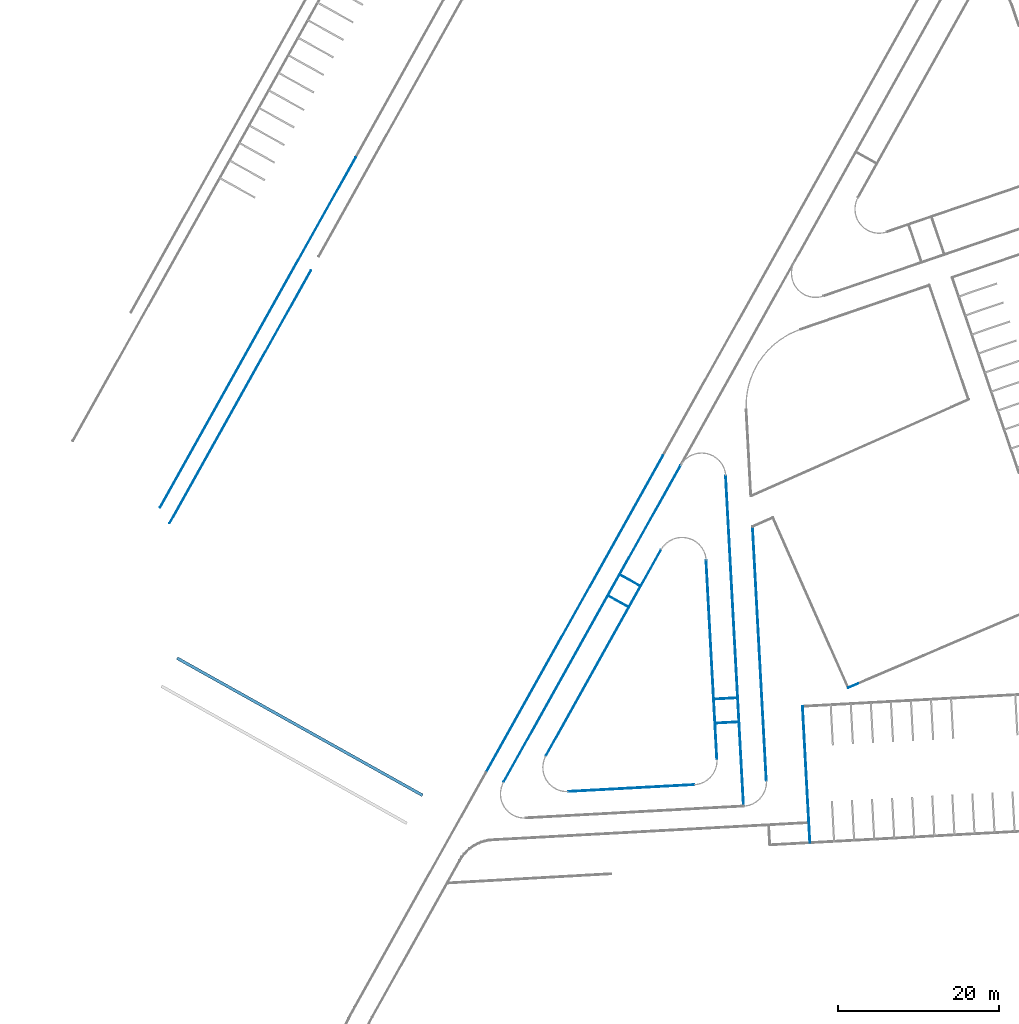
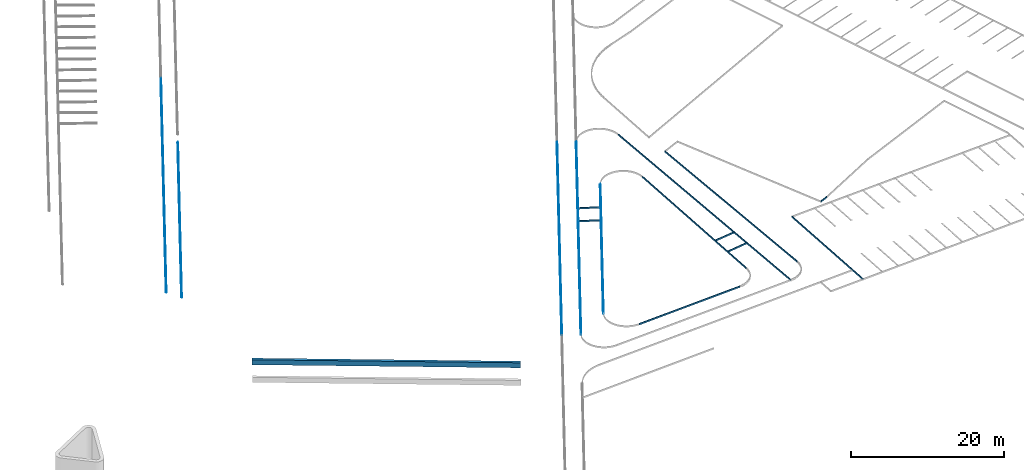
# One storey, part 3 of 112: 16 beams.
"""IFC2X3 building model written with IfcOpenShell, lengths in millimetres."""

from ifc_helpers import new_model, entity, si_unit, converted_unit, derived_unit, direction, frame, frame_2d, origin, place, context, subcontext, project, spatial, polyline, rectangle, outline, extrude, material, type_object, element, save


model = new_model("IFC2X3")

# Units and contexts
model_context = context("Model", 3, precision=0.01, world=origin(), true_north=direction((6.123031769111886e-17, 1.0)))
body_context = subcontext(model_context, "Body", "Model", "MODEL_VIEW")
ifc_project = project(units=[si_unit("LENGTHUNIT", "METRE", prefix="MILLI"), si_unit("AREAUNIT", "SQUARE_METRE"), si_unit("VOLUMEUNIT", "CUBIC_METRE"), converted_unit("PLANEANGLEUNIT", "DEGREE", entity("IfcRatioMeasure", 0.017453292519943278), si_unit("PLANEANGLEUNIT", "RADIAN"), dimensions=[0, 0, 0, 0, 0, 0, 0]), si_unit("MASSUNIT", "GRAM", prefix="KILO"), derived_unit("MASSDENSITYUNIT", [(si_unit("MASSUNIT", "GRAM", prefix="KILO"), 1), (si_unit("LENGTHUNIT", "METRE"), -3)]), derived_unit("MOMENTOFINERTIAUNIT", [(si_unit("LENGTHUNIT", "METRE"), 4)]), si_unit("TIMEUNIT", "SECOND"), si_unit("FREQUENCYUNIT", "HERTZ"), si_unit("THERMODYNAMICTEMPERATUREUNIT", "DEGREE_CELSIUS"), derived_unit("THERMALTRANSMITTANCEUNIT", [(si_unit("MASSUNIT", "GRAM", prefix="KILO"), 1), (si_unit("THERMODYNAMICTEMPERATUREUNIT", "KELVIN"), -1), (si_unit("TIMEUNIT", "SECOND"), -3)]), derived_unit("THERMALCONDUCTANCEUNIT", [(si_unit("MASSUNIT", "GRAM", prefix="KILO"), 1), (si_unit("LENGTHUNIT", "METRE"), 1), (si_unit("THERMODYNAMICTEMPERATUREUNIT", "KELVIN"), -1), (si_unit("TIMEUNIT", "SECOND"), -3)]), derived_unit("VOLUMETRICFLOWRATEUNIT", [(si_unit("LENGTHUNIT", "METRE"), 3), (si_unit("TIMEUNIT", "SECOND"), -1)]), derived_unit("MASSFLOWRATEUNIT", [(si_unit("MASSUNIT", "GRAM", prefix="KILO"), 1), (si_unit("TIMEUNIT", "SECOND"), -1)]), derived_unit("ROTATIONALFREQUENCYUNIT", [(si_unit("TIMEUNIT", "SECOND"), -1)]), si_unit("ELECTRICCURRENTUNIT", "AMPERE"), si_unit("ELECTRICVOLTAGEUNIT", "VOLT"), si_unit("POWERUNIT", "WATT"), converted_unit("FORCEUNIT", "KIP", entity("IfcRatioMeasure", 2.088543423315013e-05), si_unit("FORCEUNIT", "NEWTON"), dimensions=[1, 1, -2, 0, 0, 0, 0]), si_unit("ILLUMINANCEUNIT", "LUX"), si_unit("LUMINOUSFLUXUNIT", "LUMEN"), si_unit("LUMINOUSINTENSITYUNIT", "CANDELA"), derived_unit("USERDEFINED", [(si_unit("MASSUNIT", "GRAM", prefix="KILO"), -1), (si_unit("LENGTHUNIT", "METRE"), -2), (si_unit("TIMEUNIT", "SECOND"), 3), (si_unit("LUMINOUSFLUXUNIT", "LUMEN"), 1)]), derived_unit("USERDEFINED", [(si_unit("MASSUNIT", "GRAM", prefix="KILO"), 1), (si_unit("LENGTHUNIT", "METRE"), 3), (si_unit("TIMEUNIT", "SECOND"), -3), (si_unit("ELECTRICCURRENTUNIT", "AMPERE"), -2)]), derived_unit("USERDEFINED", [(si_unit("LENGTHUNIT", "METRE"), 2), (si_unit("TIMEUNIT", "SECOND"), -2)]), derived_unit("SOUNDPOWERUNIT", [(si_unit("MASSUNIT", "GRAM", prefix="KILO"), 1), (si_unit("LENGTHUNIT", "METRE"), 2), (si_unit("TIMEUNIT", "SECOND"), -3)]), derived_unit("SOUNDPRESSUREUNIT", [(si_unit("MASSUNIT", "GRAM", prefix="KILO"), 1), (si_unit("LENGTHUNIT", "METRE"), -1), (si_unit("TIMEUNIT", "SECOND"), -2)]), derived_unit("LINEARVELOCITYUNIT", [(si_unit("LENGTHUNIT", "METRE"), 1), (si_unit("TIMEUNIT", "SECOND"), -1)]), si_unit("PRESSUREUNIT", "PASCAL"), derived_unit("USERDEFINED", [(si_unit("LENGTHUNIT", "METRE"), -2), (si_unit("MASSUNIT", "GRAM", prefix="KILO"), 1), (si_unit("TIMEUNIT", "SECOND"), -2)]), derived_unit("LINEARFORCEUNIT", [(si_unit("MASSUNIT", "GRAM", prefix="KILO"), 1), (si_unit("LENGTHUNIT", "METRE"), 1), (si_unit("TIMEUNIT", "SECOND"), -2), (si_unit("LENGTHUNIT", "METRE"), -1)]), derived_unit("PLANARFORCEUNIT", [(si_unit("MASSUNIT", "GRAM", prefix="KILO"), 1), (si_unit("LENGTHUNIT", "METRE"), 1), (si_unit("TIMEUNIT", "SECOND"), -2), (si_unit("LENGTHUNIT", "METRE"), -2)]), derived_unit("SPECIFICHEATCAPACITYUNIT", [(si_unit("LENGTHUNIT", "METRE"), 2), (si_unit("TIMEUNIT", "SECOND"), -2), (si_unit("THERMODYNAMICTEMPERATUREUNIT", "KELVIN"), -1)]), derived_unit("VAPORPERMEABILITYUNIT", [(si_unit("TIMEUNIT", "SECOND"), 1), (si_unit("LENGTHUNIT", "METRE"), -1)]), derived_unit("DYNAMICVISCOSITYUNIT", [(si_unit("MASSUNIT", "GRAM", prefix="KILO"), 1), (si_unit("LENGTHUNIT", "METRE"), -1), (si_unit("TIMEUNIT", "SECOND"), -1)]), derived_unit("THERMALEXPANSIONCOEFFICIENTUNIT", [(si_unit("THERMODYNAMICTEMPERATUREUNIT", "KELVIN"), -1)])], contexts=[model_context])

# Site, building, storey
site_placement = place(None, frame((0.0, 0.0, 0.0), z_axis=(0.0, 0.0, 1.0), x_axis=(0.8191520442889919, 0.5735764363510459, 0.0)))
site = spatial("IfcSite", under=ifc_project, at=site_placement, Name="Default", CompositionType="ELEMENT")
building_placement = place(site_placement, origin())
building = spatial("IfcBuilding", under=site, at=building_placement, CompositionType="ELEMENT")
storey_placement = place(building_placement, frame((0.0, 0.0, -3600.0)))
storey = spatial("IfcBuildingStorey", under=building, at=storey_placement, Name="0.UG -3.60", CompositionType="ELEMENT", Elevation=-3600.0000000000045)

# Beams
ifc_material_1 = material(Name="Paveta_bordur")
beam_type_1 = type_object("IfcBeamType", Name="Beam-153 238112:Beam-153 238112", PredefinedType="NOTDEFINED")
beam_1_placement = place(storey_placement, origin())
element("IfcBeam", 1, at=beam_1_placement, inside=storey, type_object=beam_type_1, material=ifc_material_1, Name="Beam-153", ObjectType="Beam-153 238112:Beam-153 238112", context=body_context, shape_type="SweptSolid", body=[
    extrude(rectangle(XDim=250.00000000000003, YDim=99.99999999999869, at=frame_2d((2.7000623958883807e-13, -4.458655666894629e-12), x_axis=(1.0, 0.0))), frame((-7537.205577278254, 71732.131942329, 985.0), z_axis=(0.9786485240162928, -0.20554091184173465, 0.0), x_axis=(0.0, 0.0, -1.0)), (0.0, 0.0, 1.0), 1338.1490250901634),
])
ifc_material_2 = material(Name="Paint-01")
beam_type_2 = type_object("IfcBeamType", Name="Beam-139 237501:Beam-139 237501", PredefinedType="NOTDEFINED")
beam_2_placement = place(storey_placement, origin())
element("IfcBeam", 2, at=beam_2_placement, inside=storey, type_object=beam_type_2, material=ifc_material_2, Name="Beam-139", ObjectType="Beam-139 237501:Beam-139 237501", context=body_context, shape_type="SweptSolid", body=[
    extrude(outline(polyline([(-24958.478982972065, -125.0), (24953.46915664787, -125.0), (24958.478982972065, 125.0), (-24953.469156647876, 125.0), (-24958.478982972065, -125.0)])), frame((-42334.44229463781, 150063.91115927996, 2484.974904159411), z_axis=(-0.43519702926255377, 0.9003352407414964, 0.0), x_axis=(0.9001545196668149, 0.4351096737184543, -0.02003528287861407)), (0.0, 0.0, 1.0), 100.00000000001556),
])
beam_type_3 = type_object("IfcBeamType", Name="Beam-139 237447:Beam-139 237447", PredefinedType="NOTDEFINED")
beam_3_placement = place(storey_placement, origin())
element("IfcBeam", 3, at=beam_3_placement, inside=storey, type_object=beam_type_3, material=ifc_material_2, Name="Beam-139", ObjectType="Beam-139 237447:Beam-139 237447", context=body_context, shape_type="SweptSolid", body=[
    extrude(outline(polyline([(-18034.010078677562, -125.0), (18029.225078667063, -125.0), (18034.01007867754, 125.0), (-18029.22507866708, 125.0), (-18034.010078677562, -125.0)])), frame((-48736.3836078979, 144747.97691696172, 2629.9151438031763), z_axis=(-0.43518770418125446, 0.9003397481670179, 0.0), x_axis=(0.9001748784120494, 0.4351080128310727, -0.019136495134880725)), (0.0, 0.0, 1.0), 99.99999999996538),
])
beam_type_4 = type_object("IfcBeamType", Name="Beam-142 237446:Beam-142 237446", PredefinedType="NOTDEFINED")
beam_4_placement = place(storey_placement, origin())
element("IfcBeam", 4, at=beam_4_placement, inside=storey, type_object=beam_type_4, material=ifc_material_2, Name="Beam-142", ObjectType="Beam-142 237446:Beam-142 237446", context=body_context, shape_type="SweptSolid", body=[
    extrude(outline(polyline([(-20589.729018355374, -125.0), (20595.8009014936, -125.0), (20589.72901835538, 125.0), (-20595.80090149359, 125.0), (-20589.729018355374, -125.0)])), frame((-15825.925394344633, 84631.49749138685, 1484.9631376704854), z_axis=(0.849040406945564, -0.5283279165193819, 0.0), x_axis=(0.5281721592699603, 0.8487900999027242, -0.024280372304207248)), (0.0, 0.0, 1.0), 99.99999999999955),
])
beam_type_5 = type_object("IfcBeamType", Name="Beam-142 237426:Beam-142 237426", PredefinedType="NOTDEFINED")
beam_5_placement = place(storey_placement, origin())
element("IfcBeam", 5, at=beam_5_placement, inside=storey, type_object=beam_type_5, material=ifc_material_1, Name="Beam-142", ObjectType="Beam-142 237426:Beam-142 237426", context=body_context, shape_type="SweptSolid", body=[
    extrude(rectangle(XDim=250.00000000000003, YDim=100.00000000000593, at=frame_2d((0.0, 0.0), x_axis=(0.0, 1.0))), frame((-43495.43496894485, 81135.64546478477, 1485.0), z_axis=(0.849040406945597, -0.5283279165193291, 0.0), x_axis=(-0.5283279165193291, -0.849040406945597, 0.0)), (0.0, 0.0, 1.0), 15695.575451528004),
])
beam_type_6 = type_object("IfcBeamType", Name="Beam-161 237425:Beam-161 237425", PredefinedType="NOTDEFINED")
beam_6_placement = place(storey_placement, origin())
element("IfcBeam", 6, at=beam_6_placement, inside=storey, type_object=beam_type_6, material=ifc_material_2, Name="Beam-161", ObjectType="Beam-161 237425:Beam-161 237425", context=body_context, shape_type="SweptSolid", body=[
    extrude(outline(polyline([(-22591.861036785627, -125.0), (22586.32603679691, -125.0), (22591.861036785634, 125.0), (-22586.326036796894, 125.0), (-22591.861036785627, -125.0)])), frame((-29070.843463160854, 96497.19894571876, 1484.9693675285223), z_axis=(-0.4351758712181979, 0.9003454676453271, 0.0), x_axis=(-0.9001248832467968, -0.4350692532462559, 0.022134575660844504)), (0.0, 0.0, 1.0), 99.999999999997),
])
beam_type_7 = type_object("IfcBeamType", Name="Beam-152 237412:Beam-152 237412", PredefinedType="NOTDEFINED")
beam_7_placement = place(storey_placement, origin())
element("IfcBeam", 7, at=beam_7_placement, inside=storey, type_object=beam_type_7, material=ifc_material_1, Name="Beam-152", ObjectType="Beam-152 237412:Beam-152 237412", context=body_context, shape_type="SweptSolid", body=[
    extrude(rectangle(XDim=250.00000000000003, YDim=99.99999999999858, at=frame_2d((0.0, 0.0), x_axis=(0.0, 1.0))), frame((-22509.314835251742, 58654.32070107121, 1985.0), z_axis=(0.5283279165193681, 0.8490404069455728, 0.0), x_axis=(0.8490404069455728, -0.5283279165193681, 0.0)), (0.0, 0.0, 1.0), 16999.99996589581),
])
beam_type_8 = type_object("IfcBeamType", Name="Beam-144 237408:Beam-144 237408", PredefinedType="NOTDEFINED")
beam_8_placement = place(storey_placement, origin())
element("IfcBeam", 8, at=beam_8_placement, inside=storey, type_object=beam_type_8, material=ifc_material_1, Name="Beam-144", ObjectType="Beam-144 237408:Beam-144 237408", context=body_context, shape_type="SweptSolid", body=[
    extrude(rectangle(XDim=250.00000000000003, YDim=99.99999999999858, at=frame_2d((0.0, 0.0), x_axis=(0.0, 1.0))), frame((-26037.15222993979, 73805.37225918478, 1485.0), z_axis=(0.5283279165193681, 0.8490404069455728, 0.0), x_axis=(0.8490404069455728, -0.5283279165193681, 0.0)), (0.0, 0.0, 1.0), 24818.148402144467),
])
beam_type_9 = type_object("IfcBeamType", Name="Beam-146 237397:Beam-146 237397", PredefinedType="NOTDEFINED")
beam_9_placement = place(storey_placement, origin())
element("IfcBeam", 9, at=beam_9_placement, inside=storey, type_object=beam_type_9, material=ifc_material_1, Name="Beam-146", ObjectType="Beam-146 237397:Beam-146 237397", context=body_context, shape_type="SweptSolid", body=[
    extrude(rectangle(XDim=250.00000000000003, YDim=99.99999999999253, at=frame_2d((0.0, 1.8829382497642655e-12), x_axis=(1.0, 0.0))), frame((-43216.01428152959, 86383.78595448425, 1485.0), z_axis=(0.9003397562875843, 0.4351876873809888, 0.0), x_axis=(0.0, 0.0, -1.0)), (0.0, 0.0, 1.0), 29364.801699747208),
])
beam_type_10 = type_object("IfcBeamType", Name="Beam-149 237316:Beam-149 237316", PredefinedType="NOTDEFINED")
beam_10_placement = place(storey_placement, origin())
element("IfcBeam", 10, at=beam_10_placement, inside=storey, type_object=beam_type_10, material=ifc_material_2, Name="Beam-149", ObjectType="Beam-149 237316:Beam-149 237316", context=body_context, shape_type="SweptSolid", body=[
    extrude(outline(polyline([(-15843.990884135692, -125.0), (15851.882274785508, -125.0), (15843.990884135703, 125.0), (-15851.882274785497, 125.0), (-15843.990884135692, -125.0)])), frame((-14201.606447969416, 81563.5400163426, 1484.9377414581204), z_axis=(0.8490404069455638, -0.5283279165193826, 0.0), x_axis=(-0.528064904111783, -0.8486177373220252, 0.03154984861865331)), (0.0, 0.0, 1.0), 99.99999999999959),
])
beam_type_11 = type_object("IfcBeamType", Name="Beam-161 237133:Beam-161 237133", PredefinedType="NOTDEFINED")
beam_11_placement = place(storey_placement, origin())
element("IfcBeam", 11, at=beam_11_placement, inside=storey, type_object=beam_type_11, material=ifc_material_2, Name="Beam-161", ObjectType="Beam-161 237133:Beam-161 237133", context=body_context, shape_type="SweptSolid", body=[
    extrude(outline(polyline([(-1494.9963045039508, -125.0), (1511.662971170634, -125.0), (1494.9963045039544, 125.0), (-1511.6629711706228, 125.0), (-1494.9963045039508, -125.0)])), frame((-20827.548650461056, 79338.23140167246, 1584.7225301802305), z_axis=(0.5283279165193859, 0.8490404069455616, 0.0), x_axis=(-0.847159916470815, 0.5271577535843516, -0.06651901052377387)), (0.0, 0.0, 1.0), 100.00000000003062),
])
beam_type_12 = type_object("IfcBeamType", Name="Beam-162 237132:Beam-162 237132", PredefinedType="NOTDEFINED")
beam_12_placement = place(storey_placement, origin())
element("IfcBeam", 12, at=beam_12_placement, inside=storey, type_object=beam_type_12, material=ifc_material_2, Name="Beam-162", ObjectType="Beam-162 237132:Beam-162 237132", context=body_context, shape_type="SweptSolid", body=[
    extrude(outline(polyline([(-1495.4025613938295, -125.0), (1509.0910978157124, -125.0), (1495.4025613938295, 125.0), (-1509.0910978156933, 125.0), (-1495.4025613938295, -125.0)])), frame((-22165.73558762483, 98224.67382939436, 1412.6565456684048), z_axis=(0.9003397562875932, 0.4351876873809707, 0.0), x_axis=(-0.43453680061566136, 0.8989931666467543, -0.054672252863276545)), (0.0, 0.0, 1.0), 100.00000000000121),
])
beam_type_13 = type_object("IfcBeamType", Name="Beam-162 237129:Beam-162 237129", PredefinedType="NOTDEFINED")
beam_13_placement = place(storey_placement, origin())
element("IfcBeam", 13, at=beam_13_placement, inside=storey, type_object=beam_type_13, material=ifc_material_2, Name="Beam-162", ObjectType="Beam-162 237129:Beam-162 237129", context=body_context, shape_type="SweptSolid", body=[
    extrude(outline(polyline([(-1494.7826556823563, -125.0), (1515.6159890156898, -125.0), (1494.7826556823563, 125.0), (-1515.6159890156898, 125.0), (-1494.7826556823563, -125.0)])), frame((-22412.53239101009, 76791.1101953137, 1609.5667231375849), z_axis=(0.5283279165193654, 0.8490404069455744, 0.0), x_axis=(0.8461076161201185, -0.5265029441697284, 0.08304547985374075)), (0.0, 0.0, 1.0), 100.00000000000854),
])
beam_type_14 = type_object("IfcBeamType", Name="Beam-161 237126:Beam-161 237126", PredefinedType="NOTDEFINED")
beam_14_placement = place(storey_placement, origin())
element("IfcBeam", 14, at=beam_14_placement, inside=storey, type_object=beam_type_14, material=ifc_material_2, Name="Beam-161", ObjectType="Beam-161 237126:Beam-161 237126", context=body_context, shape_type="SweptSolid", body=[
    extrude(outline(polyline([(-1496.7207820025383, -125.0), (1504.8743172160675, -125.0), (1496.7207820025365, 125.0), (-1504.8743172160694, 125.0), (-1496.7207820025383, -125.0)])), frame((-24866.75485648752, 96919.11076725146, 1445.987326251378), z_axis=(0.9003397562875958, 0.4351876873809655, 0.0), x_axis=(0.4349564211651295, -0.8998613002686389, 0.03259680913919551)), (0.0, 0.0, 1.0), 100.00000000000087),
])
beam_type_15 = type_object("IfcBeamType", Name="Beam-177 219159:Beam-177 219159", PredefinedType="NOTDEFINED")
beam_15_placement = place(storey_placement, origin())
element("IfcBeam", 15, at=beam_15_placement, inside=storey, type_object=beam_type_15, material=ifc_material_2, Name="Beam-177", ObjectType="Beam-177 219159:Beam-177 219159", context=body_context, shape_type="SweptSolid", body=[
    extrude(outline(polyline([(-22591.750427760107, -125.0), (22586.215400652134, -125.0), (22591.7504277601, 125.0), (-22586.215400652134, 125.0), (-22591.750427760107, -125.0)])), frame((-30158.96518581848, 98748.12048176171, 1494.9693672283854), z_axis=(-0.4351850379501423, 0.9003410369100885, 0.0), x_axis=(0.9001204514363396, 0.4350784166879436, -0.0221346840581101)), (0.0, 0.0, 1.0), 100.00000000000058),
])
beam_type_16 = type_object("IfcBeamType", Name="Beam-149 205235:Beam-149 205235", PredefinedType="NOTDEFINED")
beam_16_placement = place(storey_placement, origin())
element("IfcBeam", 16, at=beam_16_placement, inside=storey, type_object=beam_type_16, material=ifc_material_2, Name="Beam-149", ObjectType="Beam-149 205235:Beam-149 205235", context=body_context, shape_type="SweptSolid", body=[
    extrude(outline(polyline([(-17514.423614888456, -400.0), (17495.430865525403, -400.0), (17514.423614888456, 400.0), (-17495.430865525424, 400.0), (-17514.423614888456, -400.0)])), frame((-66404.49535567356, 106830.12809840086, 2115.4581002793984), z_axis=(0.9003397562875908, 0.4351876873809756, 0.0), x_axis=(0.4350650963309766, -0.9000861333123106, -0.023734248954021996)), (0.0, 0.0, 1.0), 373.9999999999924),
])

save(model, "model.ifc")
